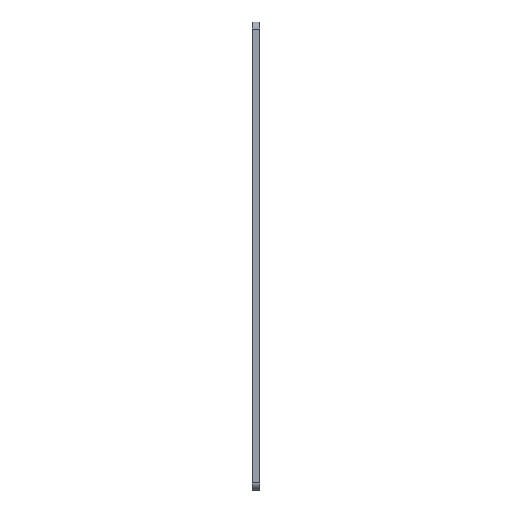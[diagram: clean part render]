
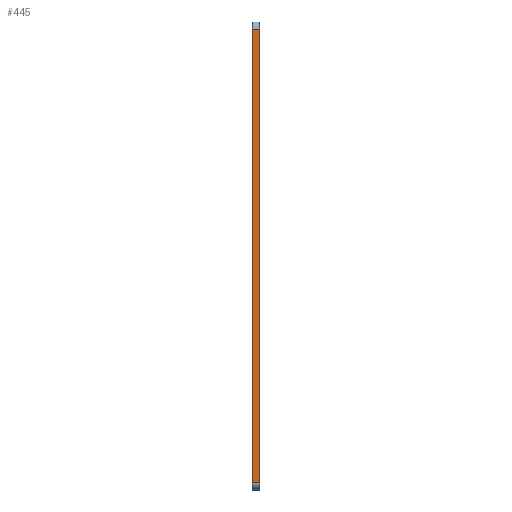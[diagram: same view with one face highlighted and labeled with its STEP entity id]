
A CAD part, left-side view. The second image highlights one B-rep face of the part: STEP entity #445.
In plain terms, the highlighted planar face has unit normal (-1, 0, 0).
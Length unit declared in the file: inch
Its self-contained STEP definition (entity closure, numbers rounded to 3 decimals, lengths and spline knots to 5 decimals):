
#17 = ORIENTED_EDGE ( 'NONE', *, *, #1160, .T. ) ;
#25 = EDGE_LOOP ( 'NONE', ( #896, #753, #366, #17 ) ) ;
#43 = DIRECTION ( 'NONE',  ( 0., 0., 1. ) ) ;
#107 = DIRECTION ( 'NONE',  ( 0., 1., 0. ) ) ;
#116 = VECTOR ( 'NONE', #107, 39.37008 ) ;
#240 = CARTESIAN_POINT ( 'NONE',  ( 0., 0., -16.25 ) ) ;
#298 = CARTESIAN_POINT ( 'NONE',  ( 0., 0.25, -16.25 ) ) ;
#308 = CARTESIAN_POINT ( 'NONE',  ( 0., 0., -16.5 ) ) ;
#328 = CARTESIAN_POINT ( 'NONE',  ( 0., 0.25, -0.25 ) ) ;
#338 = LINE ( 'NONE', #873, #1346 ) ;
#366 = ORIENTED_EDGE ( 'NONE', *, *, #529, .T. ) ;
#397 = FACE_OUTER_BOUND ( 'NONE', #25, .T. ) ;
#420 = CARTESIAN_POINT ( 'NONE',  ( 0., 0.25, -16.5 ) ) ;
#427 = DIRECTION ( 'NONE',  ( 1., 0., 0. ) ) ;
#445 = ADVANCED_FACE ( 'NONE', ( #397 ), #1266, .F. ) ;
#516 = VECTOR ( 'NONE', #759, 39.37008 ) ;
#517 = DIRECTION ( 'NONE',  ( 0., 0., -1. ) ) ;
#529 = EDGE_CURVE ( 'NONE', #768, #1347, #1276, .T. ) ;
#606 = EDGE_CURVE ( 'NONE', #1050, #768, #338, .T. ) ;
#625 = VERTEX_POINT ( 'NONE', #328 ) ;
#650 = EDGE_CURVE ( 'NONE', #1050, #625, #846, .T. ) ;
#666 = CARTESIAN_POINT ( 'NONE',  ( 0., 0.25, -16.5 ) ) ;
#677 = CARTESIAN_POINT ( 'NONE',  ( 0., 0., -0.25 ) ) ;
#753 = ORIENTED_EDGE ( 'NONE', *, *, #606, .T. ) ;
#759 = DIRECTION ( 'NONE',  ( 0., 0., 1. ) ) ;
#768 = VERTEX_POINT ( 'NONE', #240 ) ;
#772 = VECTOR ( 'NONE', #43, 39.37008 ) ;
#846 = LINE ( 'NONE', #666, #772 ) ;
#873 = CARTESIAN_POINT ( 'NONE',  ( 0., 0.25, -16.25 ) ) ;
#877 = DIRECTION ( 'NONE',  ( 0., -1., 0. ) ) ;
#886 = AXIS2_PLACEMENT_3D ( 'NONE', #420, #427, #517 ) ;
#896 = ORIENTED_EDGE ( 'NONE', *, *, #650, .F. ) ;
#975 = CARTESIAN_POINT ( 'NONE',  ( 0., 0.25, -0.25 ) ) ;
#1050 = VERTEX_POINT ( 'NONE', #298 ) ;
#1160 = EDGE_CURVE ( 'NONE', #1347, #625, #1175, .T. ) ;
#1175 = LINE ( 'NONE', #975, #116 ) ;
#1266 = PLANE ( 'NONE',  #886 ) ;
#1276 = LINE ( 'NONE', #308, #516 ) ;
#1346 = VECTOR ( 'NONE', #877, 39.37008 ) ;
#1347 = VERTEX_POINT ( 'NONE', #677 ) ;
